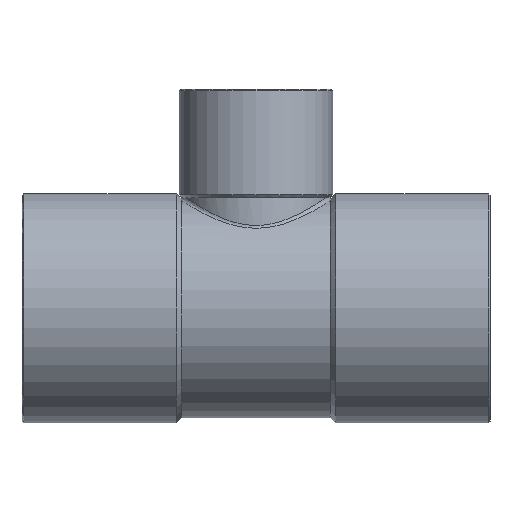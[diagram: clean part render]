
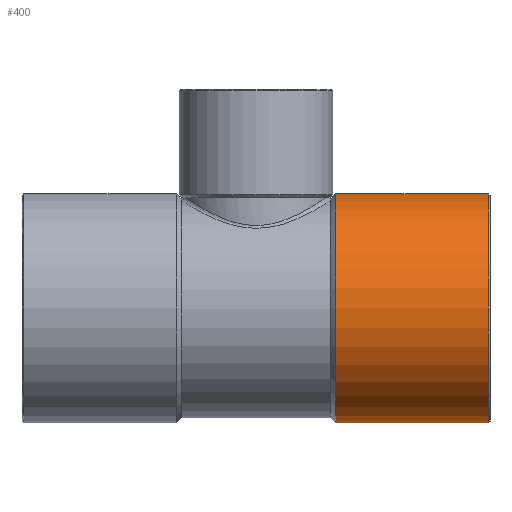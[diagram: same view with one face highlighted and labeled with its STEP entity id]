
A CAD part, top view. The second image highlights one B-rep face of the part: STEP entity #400.
In plain terms, the highlighted cylindrical face has radius 15.175 mm (diameter 30.35 mm), a partial arc.
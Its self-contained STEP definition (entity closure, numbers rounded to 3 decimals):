
#359=CARTESIAN_POINT('',(20.772,0.0,0.0));
#360=DIRECTION('',(1.0,0.0,0.0));
#361=DIRECTION('',(0.0,1.0,0.0));
#362=AXIS2_PLACEMENT_3D('',#359,#360,#361);
#363=CYLINDRICAL_SURFACE('',#362,15.175);
#364=CARTESIAN_POINT('',(10.544,15.175,0.0));
#365=VERTEX_POINT('',#364);
#366=CARTESIAN_POINT('',(30.8,15.175,0.));
#367=VERTEX_POINT('',#366);
#368=CARTESIAN_POINT('',(10.544,15.175,0.0));
#369=DIRECTION('',(1.0,0.0,0.0));
#370=VECTOR('',#369,20.256);
#371=LINE('',#368,#370);
#372=EDGE_CURVE('',#365,#367,#371,.T.);
#373=ORIENTED_EDGE('',*,*,#372,.F.);
#374=CARTESIAN_POINT('',(10.544,-15.175,0.));
#375=VERTEX_POINT('',#374);
#376=CARTESIAN_POINT('',(10.544,0.0,0.0));
#377=DIRECTION('',(1.0,0.0,0.0));
#378=DIRECTION('',(0.0,1.0,0.0));
#379=AXIS2_PLACEMENT_3D('',#376,#377,#378);
#380=CIRCLE('',#379,15.175);
#381=EDGE_CURVE('',#365,#375,#380,.T.);
#382=ORIENTED_EDGE('',*,*,#381,.T.);
#383=CARTESIAN_POINT('',(30.8,-15.175,0.));
#384=VERTEX_POINT('',#383);
#385=CARTESIAN_POINT('',(30.8,-15.175,0.));
#386=DIRECTION('',(-1.0,0.0,0.0));
#387=VECTOR('',#386,20.256);
#388=LINE('',#385,#387);
#389=EDGE_CURVE('',#384,#375,#388,.T.);
#390=ORIENTED_EDGE('',*,*,#389,.F.);
#391=CARTESIAN_POINT('',(30.8,0.0,0.0));
#392=DIRECTION('',(1.0,0.0,0.0));
#393=DIRECTION('',(0.0,-1.0,0.0));
#394=AXIS2_PLACEMENT_3D('',#391,#392,#393);
#395=CIRCLE('',#394,15.175);
#396=EDGE_CURVE('',#367,#384,#395,.T.);
#397=ORIENTED_EDGE('',*,*,#396,.F.);
#398=EDGE_LOOP('',(#373,#382,#390,#397));
#399=FACE_OUTER_BOUND('',#398,.T.);
#400=ADVANCED_FACE('',(#399),#363,.T.);
